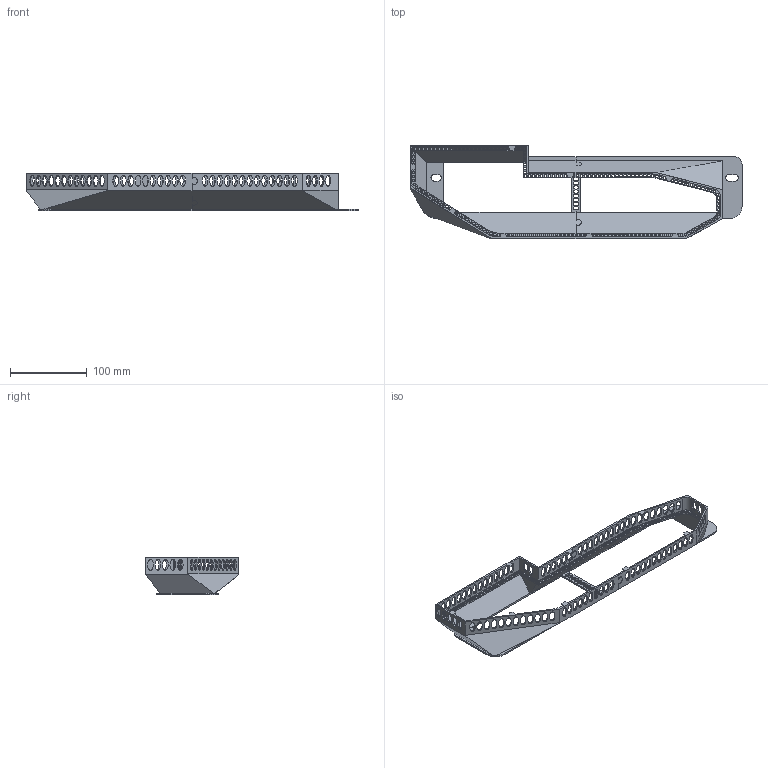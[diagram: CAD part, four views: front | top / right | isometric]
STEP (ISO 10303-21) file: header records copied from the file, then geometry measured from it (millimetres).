
FILE_DESCRIPTION(/* description */ ('Unknown','CAx-IF Rec.Pracs.---Representation and Presentation of Product Manufacturing Information (PMI)---4.0---2014-10-13','CAx-IF Rec.Pracs.---3D Tessellated Geometry---0.4---2014-09-14','2;1'),/* implementation_level */ '2;1');
FILE_NAME(/* name */ 'carcasa 7_aditiva',/* time_stamp */ '2026-02-16T15:30:23+01:00',/* author */ ('Unknown'),/* organization */ ('Unknown'),/* preprocessor_version */ 'ST-DEVELOPER v16.7',/* originating_system */ 'Solid Edge',/* authorisation */ 'Unknown');
FILE_SCHEMA (('AP242_MANAGED_MODEL_BASED_3D_ENGINEERING_MIM_LF { 1 0 10303 442 1 1 4 }'));
Length unit declared in the file: millimetre
Products named in the file (3): carcasa 7_aditiva; carcasa7_1; carcasa7_2
Assembly tree (2 placements, depth 2):
  carcasa 7_aditiva
    carcasa7_1
    carcasa7_2
Bounding box: 431.5 x 121 x 49 mm (x, y, z)
Volume: 118460.8 mm3; surface area: 132405.7 mm2
Topology: 2 solids, 2 shells, 466 faces, 1580 edges, 1109 vertices
Faces by surface type: cylinder 200, plane 150, bspline 116
Full cylindrical faces by diameter (mm): 3.5 x180
Entity records: 17737 total; most frequent: CARTESIAN_POINT 4843, DIRECTION 2461, ORIENTED_EDGE 2256, EDGE_LOOP 1263, FACE_BOUND 1263, EDGE_CURVE 1128, AXIS2_PLACEMENT_3D 988, VERTEX_POINT 923
